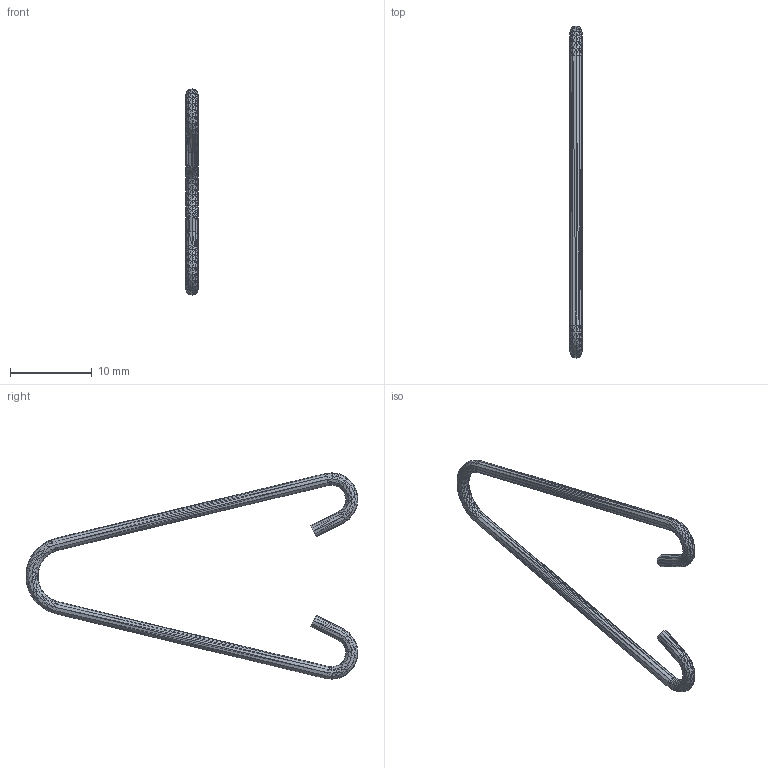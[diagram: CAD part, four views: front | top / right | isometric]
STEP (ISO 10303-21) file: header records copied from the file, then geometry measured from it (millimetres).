
FILE_DESCRIPTION((''),'2;1');
FILE_NAME('021272', '2025-08-06T06:42:14', (''), (''), 'ImageToStl.com STEP Converter','', '');
FILE_SCHEMA(('AUTOMOTIVE_DESIGN_CC2'));
Length unit declared in the file: metre
Products named in the file (1): product0
Bounding box: 1.5 x 40.68 x 25.29 mm (x, y, z)
Surface area: 471.6 mm2 (no closed solid volume)
Topology: 0 solids, 960 shells, 960 faces, 2880 edges, 482 vertices
Faces by surface type: plane 960
Entity records: 22112 total; most frequent: DIRECTION 4802, ORIENTED_EDGE 2880, EDGE_CURVE 2880, LINE 2880, VECTOR 2880, AXIS2_PLACEMENT_3D 961, FACE_SURFACE 960, PLANE 960
